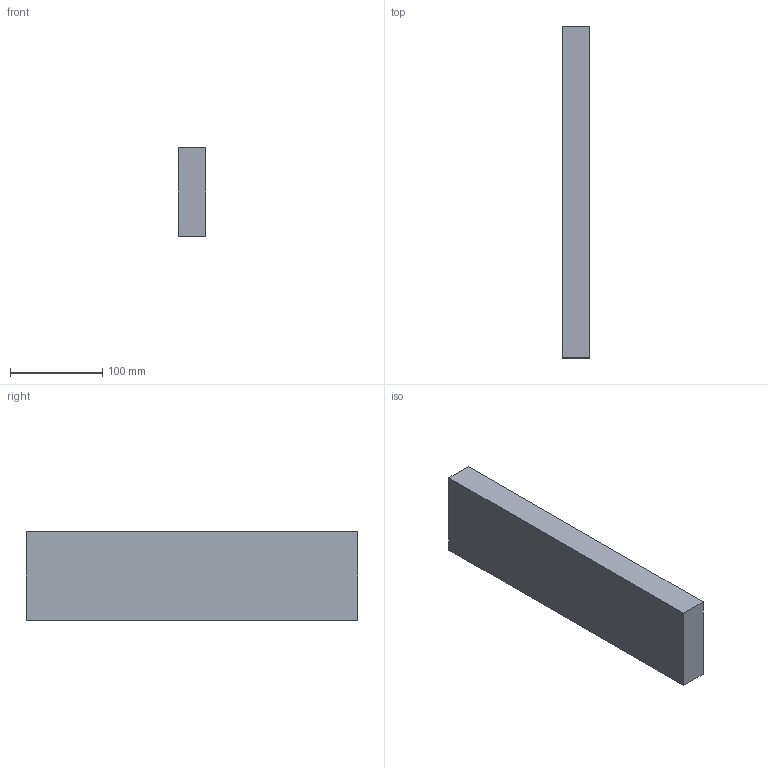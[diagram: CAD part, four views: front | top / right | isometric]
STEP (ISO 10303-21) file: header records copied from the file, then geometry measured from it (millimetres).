
FILE_DESCRIPTION(('Open CASCADE Model'),'2;1');
FILE_NAME('Open CASCADE Shape Model','2026-10-16T18:03:45',('Author'),( 'Open CASCADE'),'Open CASCADE STEP processor 7.8','Open CASCADE 7.8' ,'Unknown');
FILE_SCHEMA(('AUTOMOTIVE_DESIGN { 1 0 10303 214 1 1 1 1 }'));
Length unit declared in the file: millimetre
Products named in the file (1): Open CASCADE STEP translator 7.8 46
Bounding box: 30 x 360 x 96 mm (x, y, z)
Volume: 1036800 mm3; surface area: 96480 mm2
Topology: 1 solids, 1 shells, 6 faces, 12 edges, 8 vertices
Faces by surface type: plane 6
Entity records: 322 total; most frequent: CARTESIAN_POINT 51, DIRECTION 50, LINE 36, VECTOR 36, ORIENTED_EDGE 24, PCURVE 24, DEFINITIONAL_REPRESENTATION 24, EDGE_CURVE 12
